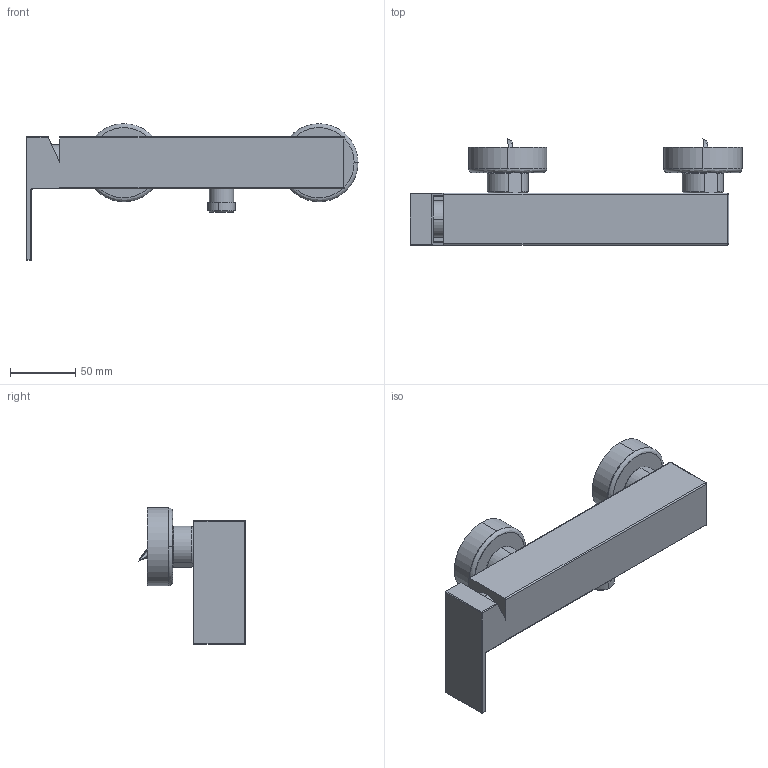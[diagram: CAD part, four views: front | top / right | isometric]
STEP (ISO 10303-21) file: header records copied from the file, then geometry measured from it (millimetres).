
FILE_DESCRIPTION (( 'STEP AP214' ), '1' );
FILE_NAME ('58201510 x architetti.STEP', '2025-01-24T11:00:10', ( '' ), ( '' ), 'SwSTEP 2.0', 'SolidWorks 2020', '' );
FILE_SCHEMA (( 'AUTOMOTIVE_DESIGN' ));
Length unit declared in the file: millimetre
Products named in the file (1): 58201510 x architetti
Bounding box: 255.18 x 81.76 x 104.98 mm (x, y, z)
Surface area: 88777.6 mm2 (no closed solid volume)
Topology: 0 solids, 17 shells, 226 faces, 527 edges, 326 vertices
Faces by surface type: cylinder 86, plane 70, bspline 46, cone 24
Entity records: 10887 total; most frequent: CARTESIAN_POINT 3797, ORIENTED_EDGE 1024, DIRECTION 988, EDGE_CURVE 517, AXIS2_PLACEMENT_3D 397, VERTEX_POINT 326, EDGE_LOOP 250, ADVANCED_FACE 226
